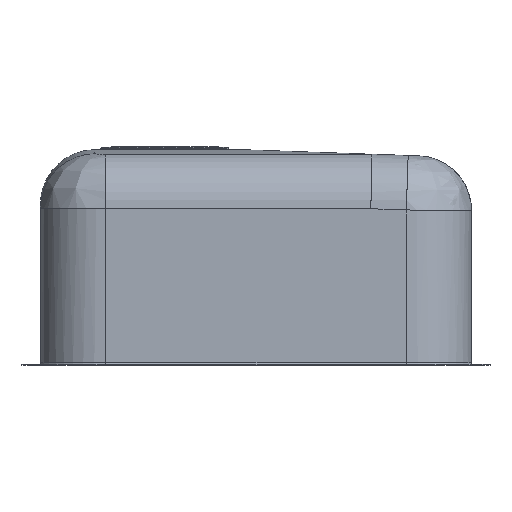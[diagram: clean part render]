
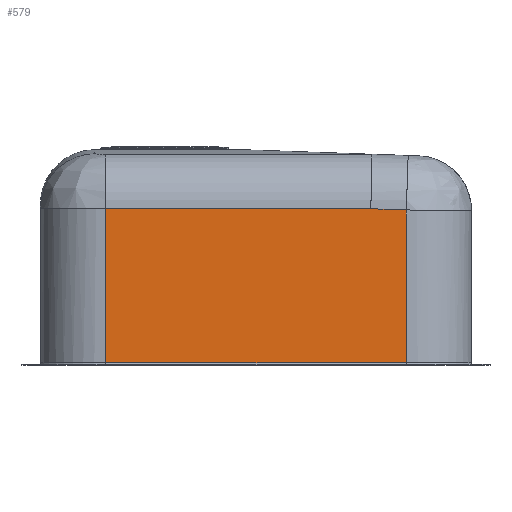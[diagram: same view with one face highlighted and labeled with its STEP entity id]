
A CAD part, left-side view. The second image highlights one B-rep face of the part: STEP entity #579.
In plain terms, the highlighted planar face has unit normal (-1, 0, 0).
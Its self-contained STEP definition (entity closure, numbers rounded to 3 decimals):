
#258=CARTESIAN_POINT('Vertex',(-250.8,-140.,-197.8)) ;
#527=CARTESIAN_POINT('Vertex',(-250.8,-140.,-55.373)) ;
#530=CARTESIAN_POINT('Line Origine',(-250.8,-140.,-126.587)) ;
#542=CARTESIAN_POINT('Axis2P3D Location',(-250.8,200.,0.)) ;
#548=CARTESIAN_POINT('Control Point',(-250.8,-140.,-55.373)) ;
#549=CARTESIAN_POINT('Control Point',(-250.8,-107.,-54.221)) ;
#550=CARTESIAN_POINT('Vertex',(-250.8,-107.,-54.221)) ;
#553=CARTESIAN_POINT('Line Origine',(-250.8,0.,-54.221)) ;
#557=CARTESIAN_POINT('Vertex',(-250.8,140.,-54.221)) ;
#560=CARTESIAN_POINT('Line Origine',(-250.8,140.,-126.01)) ;
#564=CARTESIAN_POINT('Vertex',(-250.8,140.,-197.8)) ;
#567=CARTESIAN_POINT('Line Origine',(-250.8,0.,-197.8)) ;
#531=DIRECTION('Vector Direction',(0.,0.,-1.)) ;
#543=DIRECTION('Axis2P3D Direction',(1.,0.,0.)) ;
#544=DIRECTION('Axis2P3D XDirection',(0.,-1.,0.)) ;
#554=DIRECTION('Vector Direction',(0.,-1.,0.)) ;
#561=DIRECTION('Vector Direction',(0.,0.,-1.)) ;
#568=DIRECTION('Vector Direction',(0.,-1.,0.)) ;
#545=AXIS2_PLACEMENT_3D('Plane Axis2P3D',#542,#543,#544) ;
#573=ORIENTED_EDGE('',*,*,#534,.F.) ;
#574=ORIENTED_EDGE('',*,*,#552,.T.) ;
#575=ORIENTED_EDGE('',*,*,#559,.T.) ;
#576=ORIENTED_EDGE('',*,*,#566,.T.) ;
#577=ORIENTED_EDGE('',*,*,#571,.F.) ;
#532=VECTOR('Line Direction',#531,1.) ;
#555=VECTOR('Line Direction',#554,1.) ;
#562=VECTOR('Line Direction',#561,1.) ;
#569=VECTOR('Line Direction',#568,1.) ;
#579=ADVANCED_FACE('PartBody',(#578),#546,.F.) ;
#547=B_SPLINE_CURVE_WITH_KNOTS('',1,(#548,#549),.UNSPECIFIED.,.F.,.U.,(2,2),(-117.006,-83.986),.UNSPECIFIED.) ;
#534=EDGE_CURVE('',#528,#259,#533,.T.) ;
#552=EDGE_CURVE('',#528,#551,#547,.T.) ;
#559=EDGE_CURVE('',#551,#558,#556,.F.) ;
#566=EDGE_CURVE('',#558,#565,#563,.T.) ;
#571=EDGE_CURVE('',#259,#565,#570,.F.) ;
#572=EDGE_LOOP('',(#573,#574,#575,#576,#577)) ;
#578=FACE_OUTER_BOUND('',#572,.T.) ;
#533=LINE('Line',#530,#532) ;
#556=LINE('Line',#553,#555) ;
#563=LINE('Line',#560,#562) ;
#570=LINE('Line',#567,#569) ;
#546=PLANE('',#545) ;
#259=VERTEX_POINT('',#258) ;
#528=VERTEX_POINT('',#527) ;
#551=VERTEX_POINT('',#550) ;
#558=VERTEX_POINT('',#557) ;
#565=VERTEX_POINT('',#564) ;
